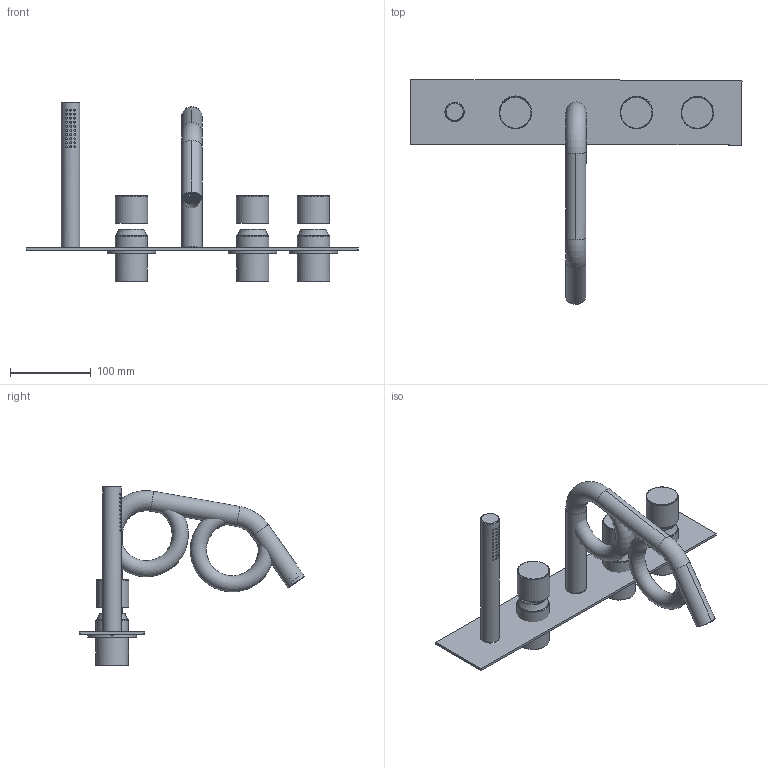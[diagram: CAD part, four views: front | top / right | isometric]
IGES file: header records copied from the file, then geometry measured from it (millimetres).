
Start section: Data from Parasolid IGES Translator 22.0.50, Copyright(c) 2006 Siemens P LM Software. All Rights Reserved.
Global section: file name: noorth-taps-H 18,6 D 28,3 W 41,8_5847.igs; native system: By Siemens PLM Incorporated; preprocessor: XPlus GENERIC/IGES 22.0.50; author: Noname; organization: Noname; date: 20260208.171020; units: metre
Bounding box: 410.18 x 278.03 x 222 mm (x, y, z)
Volume: 682955.8 mm3; surface area: 249893.7 mm2
Topology: 13 solids, 13 shells, 347 faces, 1072 edges, 791 vertices
Faces by surface type: plane 156, cylinder 107, cone 57, bspline 20, torus 4, extrusion 3
Full cylindrical faces by diameter (mm): 1 x5, 2 x30, 3 x1, 4 x1, 6 x6, 13.7 x1, 15.2 x1, 17.7 x1, 19.2 x1, 20 x2, 20.8 x1, 21.5 x2, 23 x1, 23.6 x3, 24 x4, 25 x1, 30 x3, 35.2 x3, 36 x3, 37 x3, 40 x9, 60 x3
